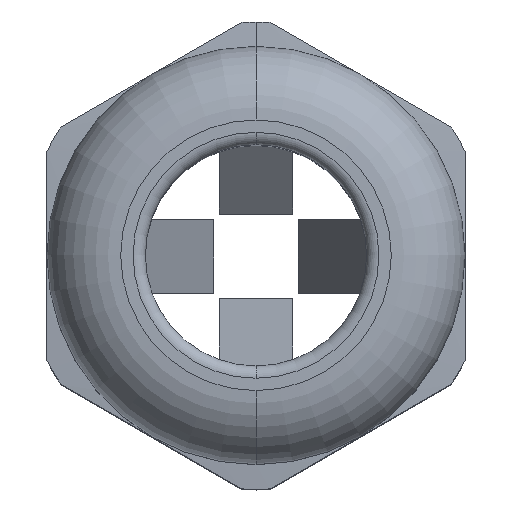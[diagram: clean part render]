
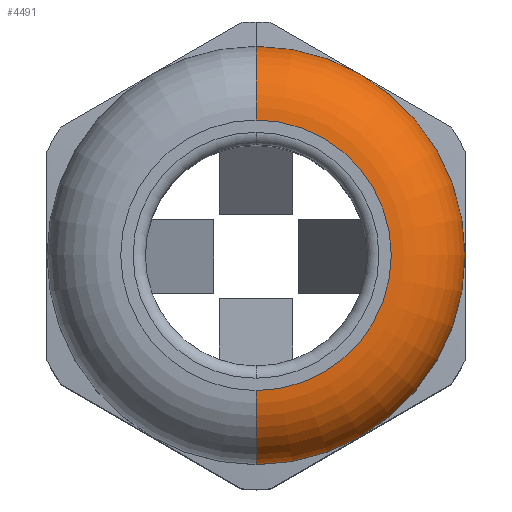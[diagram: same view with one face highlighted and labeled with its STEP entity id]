
A CAD part, top view. The second image highlights one B-rep face of the part: STEP entity #4491.
In plain terms, the highlighted toroidal (fillet/blend) face has major radius 5.5 mm and minor radius 3 mm.
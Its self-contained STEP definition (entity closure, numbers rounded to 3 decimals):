
#181 = CARTESIAN_POINT ( 'NONE',  ( 0., -8.5, 27. ) ) ;
#208 = CIRCLE ( 'NONE', #211, 3. ) ;
#211 = AXIS2_PLACEMENT_3D ( 'NONE', #252, #251, #250 ) ;
#250 = DIRECTION ( 'NONE',  ( 0., 0., 1. ) ) ;
#251 = DIRECTION ( 'NONE',  ( -1., 0., 0. ) ) ;
#252 = CARTESIAN_POINT ( 'NONE',  ( 0., 5.5, 27. ) ) ;
#2530 = CARTESIAN_POINT ( 'NONE',  ( 0., 8.5, 27. ) ) ;
#2542 = DIRECTION ( 'NONE',  ( 0., 1., 0. ) ) ;
#2543 = DIRECTION ( 'NONE',  ( 0., 0., -1. ) ) ;
#2544 = CARTESIAN_POINT ( 'NONE',  ( 0., 0., 27. ) ) ;
#2545 = AXIS2_PLACEMENT_3D ( 'NONE', #2544, #2543, #2542 ) ;
#2546 = CIRCLE ( 'NONE', #2545, 8.5 ) ;
#2575 = DIRECTION ( 'NONE',  ( 0., 1., 0. ) ) ;
#2576 = DIRECTION ( 'NONE',  ( 1., 0., 0. ) ) ;
#2577 = AXIS2_PLACEMENT_3D ( 'NONE', #2630, #2576, #2575 ) ;
#2578 = CIRCLE ( 'NONE', #2577, 3. ) ;
#2602 = CARTESIAN_POINT ( 'NONE',  ( 0., -5.5, 30. ) ) ;
#2603 = CARTESIAN_POINT ( 'NONE',  ( 0., 5.5, 30. ) ) ;
#2604 = DIRECTION ( 'NONE',  ( 0., 1., 0. ) ) ;
#2605 = DIRECTION ( 'NONE',  ( 0., 0., -1. ) ) ;
#2606 = AXIS2_PLACEMENT_3D ( 'NONE', #2616, #2605, #2604 ) ;
#2607 = CIRCLE ( 'NONE', #2606, 5.5 ) ;
#2608 = DIRECTION ( 'NONE',  ( 0., 1., 0. ) ) ;
#2609 = DIRECTION ( 'NONE',  ( 0., 0., -1. ) ) ;
#2610 = CARTESIAN_POINT ( 'NONE',  ( 0., 0., 27. ) ) ;
#2611 = AXIS2_PLACEMENT_3D ( 'NONE', #2610, #2609, #2608 ) ;
#2616 = CARTESIAN_POINT ( 'NONE',  ( 0., 0., 30. ) ) ;
#2617 = TOROIDAL_SURFACE ( 'NONE', #2611, 5.5, 3. ) ;
#2618 = FACE_OUTER_BOUND ( 'NONE', #4424, .T. ) ;
#2630 = CARTESIAN_POINT ( 'NONE',  ( 0., -5.5, 27. ) ) ;
#4424 = EDGE_LOOP ( 'NONE', ( #4492, #4580, #4575, #4581 ) ) ;
#4491 = ADVANCED_FACE ( 'NONE', ( #2618 ), #2617, .T. ) ;
#4492 = ORIENTED_EDGE ( 'NONE', *, *, #4493, .T. ) ;
#4493 = EDGE_CURVE ( 'NONE', #4494, #4495, #2607, .T. ) ;
#4494 = VERTEX_POINT ( 'NONE', #2603 ) ;
#4495 = VERTEX_POINT ( 'NONE', #2602 ) ;
#4530 = EDGE_CURVE ( 'NONE', #4495, #4579, #2578, .T. ) ;
#4545 = EDGE_CURVE ( 'NONE', #4553, #4579, #2546, .T. ) ;
#4553 = VERTEX_POINT ( 'NONE', #2530 ) ;
#4575 = ORIENTED_EDGE ( 'NONE', *, *, #4545, .F. ) ;
#4579 = VERTEX_POINT ( 'NONE', #181 ) ;
#4580 = ORIENTED_EDGE ( 'NONE', *, *, #4530, .T. ) ;
#4581 = ORIENTED_EDGE ( 'NONE', *, *, #4585, .F. ) ;
#4585 = EDGE_CURVE ( 'NONE', #4494, #4553, #208, .T. ) ;
